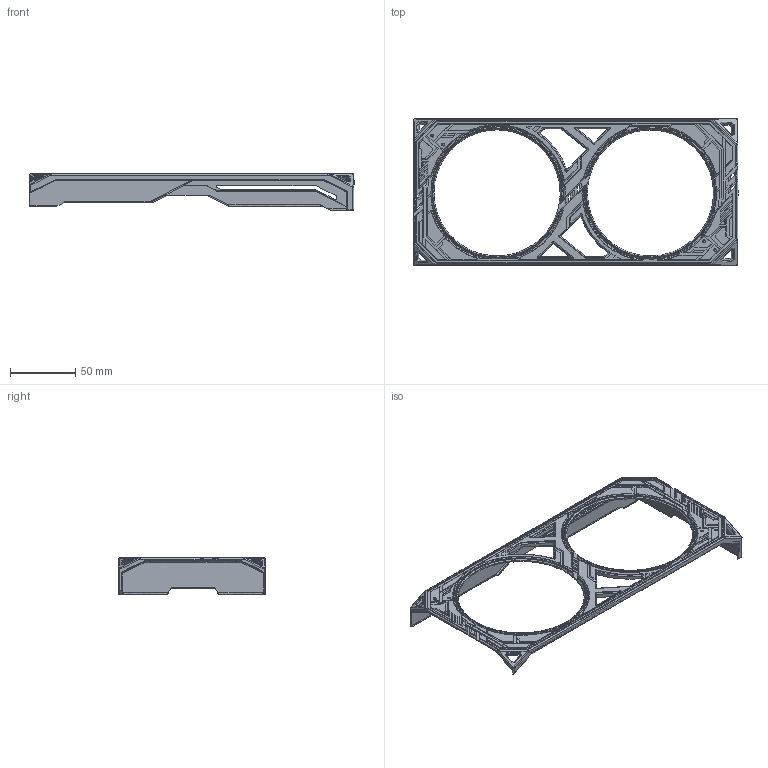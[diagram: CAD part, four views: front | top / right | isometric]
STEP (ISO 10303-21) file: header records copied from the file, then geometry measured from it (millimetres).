
FILE_DESCRIPTION((''),'2;1');
FILE_NAME('F306_MAKER_COVER','2023-04-18T09:07:27',('Kate'),(''),'CREO PARAMETRIC BY PTC INC, 2020281','CREO PARAMETRIC BY PTC INC, 2020281','');
FILE_SCHEMA(('CONFIG_CONTROL_DESIGN'));
Products named in the file (1): F306_MAKER_COVER
Bounding box: 249.92 x 112.9 x 28 mm (x, y, z)
Volume: 47514.9 mm3; surface area: 47713.9 mm2
Topology: 1 solids, 1 shells, 1395 faces, 3726 edges, 2333 vertices
Faces by surface type: plane 811, cylinder 323, bspline 159, torus 41, cone 32, sphere 20, extrusion 9
Entity records: 50862 total; most frequent: CARTESIAN_POINT 17957, ORIENTED_EDGE 7446, DIRECTION 6009, EDGE_CURVE 3723, VERTEX_POINT 2333, VECTOR 2233, LINE 2224, AXIS2_PLACEMENT_3D 1888
